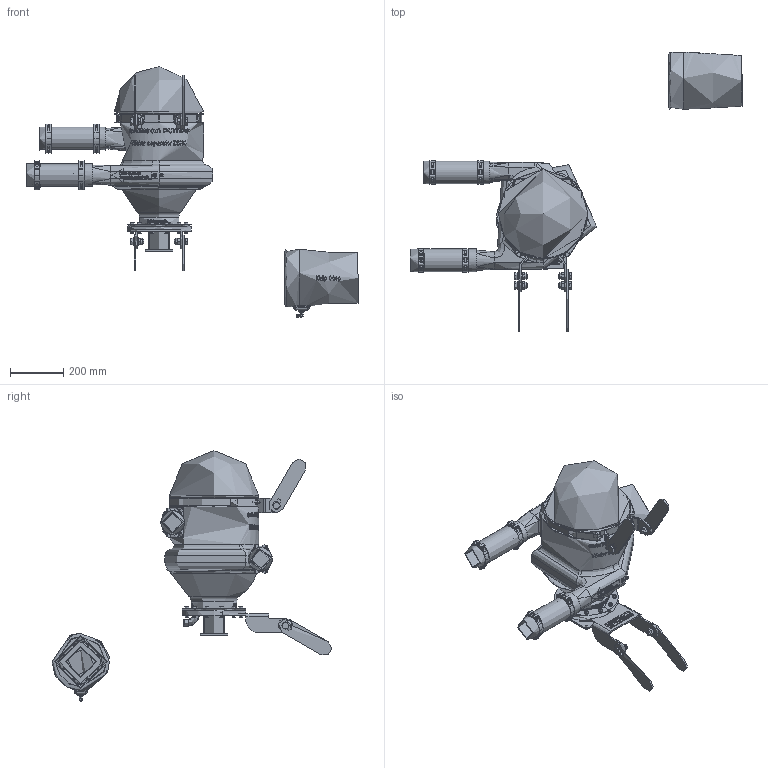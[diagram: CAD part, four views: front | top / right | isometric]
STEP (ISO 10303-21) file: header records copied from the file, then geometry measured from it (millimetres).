
FILE_DESCRIPTION(/* description */ (''),/* implementation_level */ '2;1');
FILE_NAME(/* name */ '1700113C.stp',/* time_stamp */ '2026-07-07T09:26:22+02:00',/* author */ ('DH'),/* organization */ (''),/* preprocessor_version */ 'ST-DEVELOPER v20',/* originating_system */ 'Autodesk Inventor 2025',/* authorisation */ '');
FILE_SCHEMA (('AUTOMOTIVE_DESIGN { 1 0 10303 214 3 1 1 }'));
Length unit declared in the file: millimetre
Products named in the file (1): 1700113C
Bounding box: 1247.18 x 1051.07 x 942.25 mm (x, y, z)
Topology: 7 solids, 8 shells, 9319 faces, 24824 edges, 16332 vertices
Faces by surface type: plane 4609, bspline 3496, cylinder 780, cone 314, torus 108, sphere 12
Full cylindrical faces by diameter (mm): 3.3 x4, 3.8 x4, 4.917 x8, 6 x25, 6.5 x8, 8 x18, 8.4 x8, 8.5 x4, 8.566 x1, 9.188 x2, 10 x20, 10.5 x2, 11 x5, 11.5 x1, 12 x10, 13 x12, 13.835 x1, 14 x2, 14.376 x1, 15.4 x2, 16 x7, 16.5 x2, 17 x31, 18.631 x1, 21.7 x1, 22.49 x4, 23.8 x1, 24 x4, 26 x1, 30 x8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
Entity records: 356408 total; most frequent: CARTESIAN_POINT 138294, ORIENTED_EDGE 49580, DIRECTION 31654, EDGE_CURVE 24790, VERTEX_POINT 16332, LINE 13848, VECTOR 13848, EDGE_LOOP 10330
